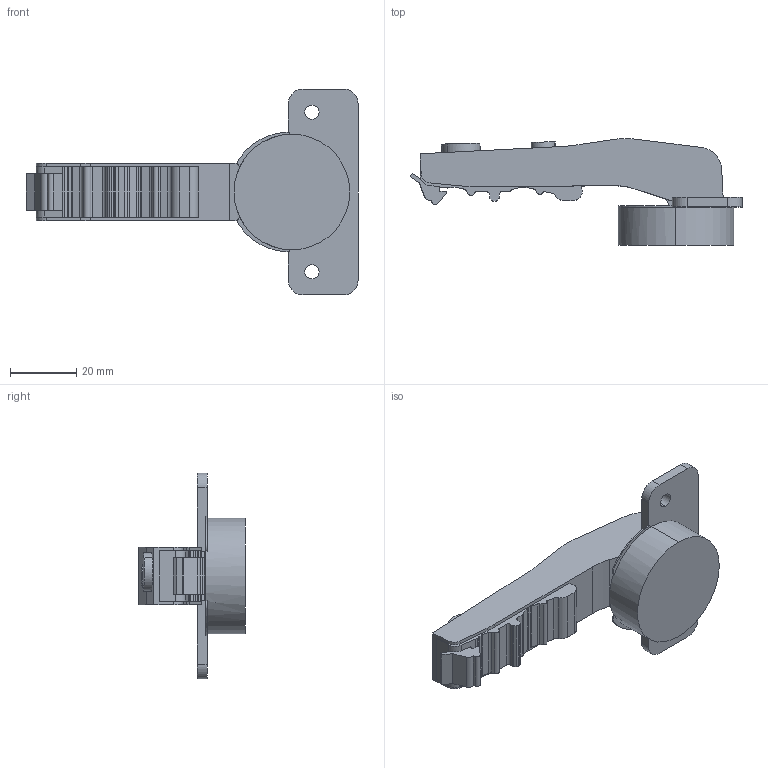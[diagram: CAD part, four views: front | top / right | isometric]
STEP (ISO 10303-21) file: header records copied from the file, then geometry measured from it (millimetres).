
FILE_DESCRIPTION (( 'STEP AP203' ), '1' );
FILE_NAME ('C82J676FA-DTC 3D close.STEP', '2024-09-07T00:39:07', ( '微软用户' ), ( '微软中国' ), 'SwSTEP 2.0', 'SolidWorks 2021', '' );
FILE_SCHEMA (( 'CONFIG_CONTROL_DESIGN' ));
Length unit declared in the file: millimetre
Products named in the file (1): C82J676FA-DTC 3D close
Bounding box: 99.88 x 32.14 x 61.96 mm (x, y, z)
Volume: 36689.8 mm3; surface area: 11245.7 mm2
Topology: 1 solids, 1 shells, 128 faces, 369 edges, 246 vertices
Faces by surface type: cylinder 64, plane 64
Entity records: 4328 total; most frequent: CARTESIAN_POINT 768, DIRECTION 745, ORIENTED_EDGE 738, EDGE_CURVE 369, AXIS2_PLACEMENT_3D 255, VERTEX_POINT 246, LINE 235, VECTOR 235
